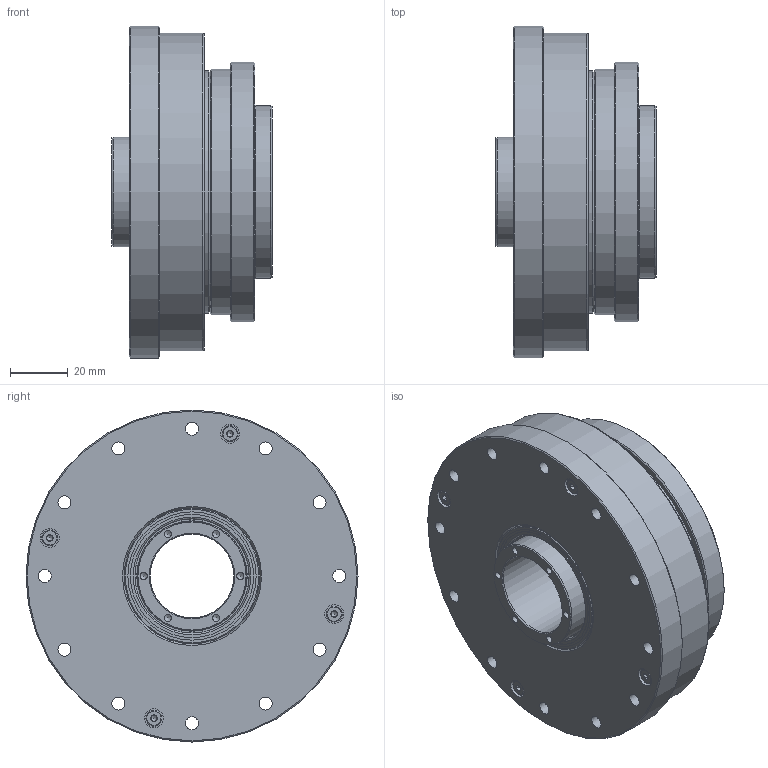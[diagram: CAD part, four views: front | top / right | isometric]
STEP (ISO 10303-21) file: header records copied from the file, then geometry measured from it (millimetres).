
FILE_DESCRIPTION(/* description */ (''),/* implementation_level */ '2;1');
FILE_NAME(/* name */ 'Hollowshaft-Unit-BG-63.stp',/* time_stamp */ '2024-10-14T11:01:42+02:00',/* author */ (''),/* organization */ (''),/* preprocessor_version */ 'ST-DEVELOPER v19.4',/* originating_system */ 'SIEMENS PLM Software NX2212.9120',/* authorisation */ '');
FILE_SCHEMA (('AUTOMOTIVE_DESIGN { 1 0 10303 214 3 1 1 1 }'));
Length unit declared in the file: millimetre
Products named in the file (1): Hollowshaft-Unit-BG-63_stp_objects
Bounding box: 55.5 x 115 x 115 mm (x, y, z)
Volume: 276315.8 mm3; surface area: 214812.3 mm2
Topology: 90 solids, 92 shells, 994 faces, 2370 edges, 1531 vertices
Faces by surface type: cylinder 339, plane 292, cone 199, torus 104, sphere 59, extrusion 1
Full cylindrical faces by diameter (mm): 1.7 x1, 2.5 x10, 2.6 x8, 3 x8, 3.4 x24, 3.5 x8, 4.2 x24, 4.5 x68, 5.5 x8, 6.5 x8, 29 x1, 38 x2, 38.52 x1, 39.72 x2, 40 x9, 40.4 x2, 41.58 x2, 42 x1, 42.72 x2, 43.693 x1, 43.694 x2, 44 x8, 44.4 x2, 44.705 x2, 45 x1, 45.5 x4, 45.993 x2, 46.5 x4, 47 x4, 47.995 x2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
Entity records: 30083 total; most frequent: CARTESIAN_POINT 9704, DIRECTION 4087, ORIENTED_EDGE 3070, AXIS2_PLACEMENT_3D 1941, EDGE_LOOP 1780, FACE_BOUND 1569, EDGE_CURVE 1535, VERTEX_POINT 1337
